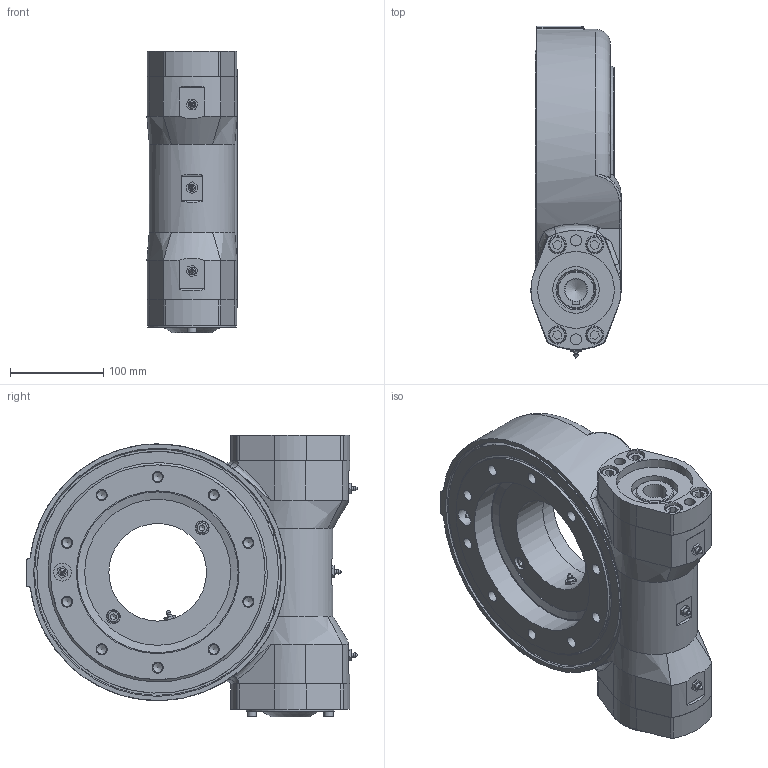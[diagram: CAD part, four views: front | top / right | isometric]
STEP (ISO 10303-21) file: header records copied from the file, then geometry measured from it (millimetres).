
FILE_DESCRIPTION (( 'STEP AP214' ), '1' );
FILE_NAME ('FWA7-47M-25H-R-REV.A.STEP', '2023-03-08T05:00:36', ( '' ), ( '' ), 'SwSTEP 2.0', 'SolidWorks 2018', '' );
FILE_SCHEMA (( 'AUTOMOTIVE_DESIGN' ));
Length unit declared in the file: millimetre
Products named in the file (1): FWA7-47M-25H-R-REV.A
Bounding box: 97 x 356.8 x 303 mm (x, y, z)
Volume: 4042603.7 mm3; surface area: 769539 mm2
Topology: 16 solids, 16 shells, 713 faces, 1545 edges, 991 vertices
Faces by surface type: plane 319, cylinder 241, cone 71, torus 39, bspline 38, sphere 5
Full cylindrical faces by diameter (mm): 5 x2, 6 x2, 7 x7, 8 x5, 9 x2, 10 x8, 10.2 x29, 12 x31, 13 x10, 14 x11, 15 x2, 18 x8, 19 x1, 19.5 x8, 24 x1, 25.4 x1, 35 x1, 40 x4, 41.908 x2, 47 x2, 50 x4, 57 x1, 66 x2, 68.5 x2, 75 x2, 80 x4, 82.55 x1, 82.8 x2, 90.4 x2, 95 x1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
Entity records: 28553 total; most frequent: CARTESIAN_POINT 6396, DIRECTION 2955, ORIENTED_EDGE 2374, AXIS2_PLACEMENT_3D 1237, EDGE_CURVE 1187, EDGE_LOOP 1179, FACE_OUTER_BOUND 921, VERTEX_POINT 918
